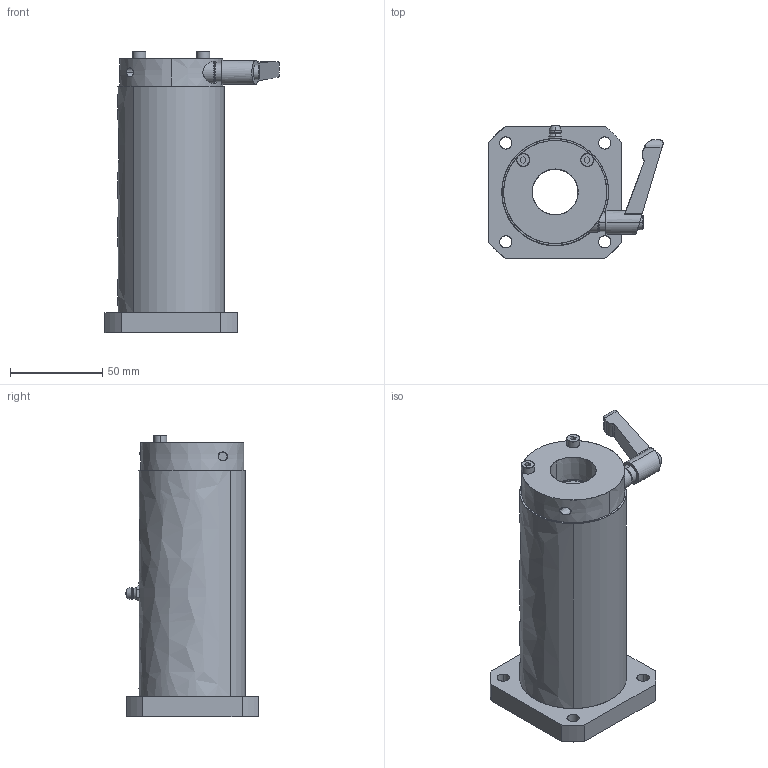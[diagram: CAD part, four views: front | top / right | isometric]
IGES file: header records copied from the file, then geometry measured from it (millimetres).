
Start section: SolidWorks IGES file using analytic representation for surfaces
Global section: file name: C:\Users\yamad\Desktop\IGES\LFWK25-OH-CS.IGS; native system: SolidWorks 2019; preprocessor: SolidWorks 2019; author: yamad; date: 230626.171405; units: millimetre
Bounding box: 94.6 x 72.39 x 153 mm (x, y, z)
Surface area: 65914.1 mm2 (no closed solid volume)
Topology: 0 solids, 0 shells, 233 faces, 5459 edges, 5457 vertices
Faces by surface type: bspline 126, revolution 107
